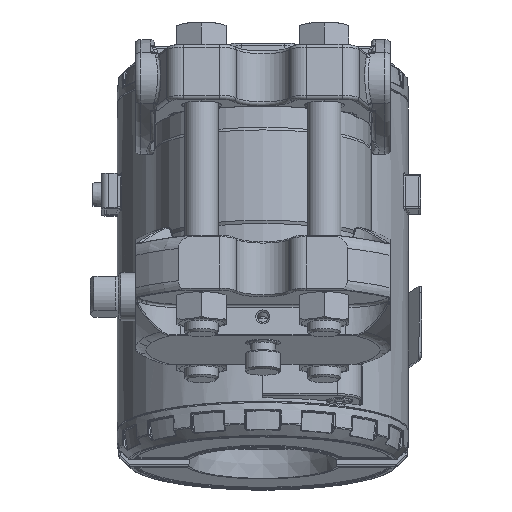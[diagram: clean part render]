
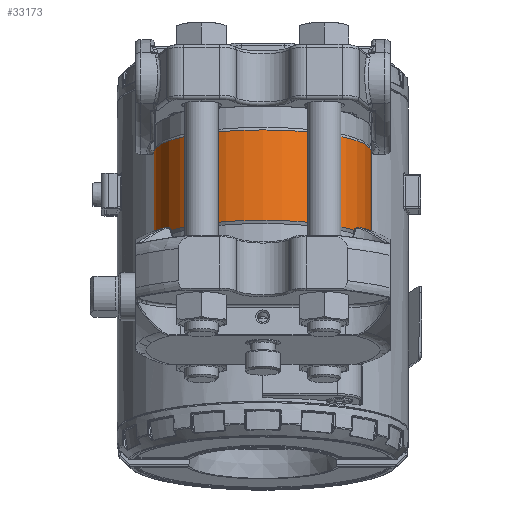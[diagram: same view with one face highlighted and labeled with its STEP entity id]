
A CAD part, left-side view. The second image highlights one B-rep face of the part: STEP entity #33173.
In plain terms, the highlighted cylindrical face has radius 31 mm (diameter 62 mm), a full revolution.
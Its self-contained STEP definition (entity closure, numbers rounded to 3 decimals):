
#523=B_SPLINE_CURVE_WITH_KNOTS('',3,(#51114,#51115,#51116,#51117,#51118,
#51119),.UNSPECIFIED.,.F.,.F.,(4,1,1,4),(0.,0.548,0.913,
1.279),.UNSPECIFIED.);
#524=B_SPLINE_CURVE_WITH_KNOTS('',3,(#51163,#51164,#51165,#51166,#51167,
#51168,#51169),.UNSPECIFIED.,.F.,.F.,(4,1,1,1,4),(0.,0.274,
0.548,0.913,1.279),.UNSPECIFIED.);
#525=B_SPLINE_CURVE_WITH_KNOTS('',3,(#51206,#51207,#51208,#51209,#51210,
#51211),.UNSPECIFIED.,.F.,.F.,(4,1,1,4),(0.,0.548,0.913,
1.279),.UNSPECIFIED.);
#526=B_SPLINE_CURVE_WITH_KNOTS('',3,(#51253,#51254,#51255,#51256,#51257,
#51258,#51259),.UNSPECIFIED.,.F.,.F.,(4,1,1,1,4),(0.,
0.274,0.548,0.913,1.279),
 .UNSPECIFIED.);
#3255=CYLINDRICAL_SURFACE('',#35961,31.);
#3831=FACE_OUTER_BOUND('',#6068,.T.);
#6068=EDGE_LOOP('',(#22300,#22301,#22302,#22303,#22304,#22305,#22306,#22307,
#22308,#22309,#22310,#22311,#22312,#22313,#22314,#22315,#22316,#22317));
#8380=LINE('',#51081,#9624);
#8381=LINE('',#51173,#9625);
#8382=LINE('',#51261,#9626);
#8383=LINE('',#51262,#9627);
#9624=VECTOR('',#40628,10.);
#9625=VECTOR('',#40645,10.);
#9626=VECTOR('',#40658,31.);
#9627=VECTOR('',#40659,31.);
#10827=CIRCLE('',#35815,31.);
#10828=CIRCLE('',#35816,31.);
#10833=CIRCLE('',#35823,31.);
#10834=CIRCLE('',#35824,31.);
#10907=CIRCLE('',#35951,31.);
#10908=CIRCLE('',#35952,31.);
#10913=CIRCLE('',#35959,31.);
#10914=CIRCLE('',#35960,31.);
#13499=VERTEX_POINT('',#50565);
#13500=VERTEX_POINT('',#50566);
#13506=VERTEX_POINT('',#50582);
#13507=VERTEX_POINT('',#50584);
#13586=VERTEX_POINT('',#51077);
#13587=VERTEX_POINT('',#51079);
#13588=VERTEX_POINT('',#51112);
#13589=VERTEX_POINT('',#51121);
#13590=VERTEX_POINT('',#51123);
#13591=VERTEX_POINT('',#51161);
#13592=VERTEX_POINT('',#51171);
#13593=VERTEX_POINT('',#51204);
#13594=VERTEX_POINT('',#51213);
#13595=VERTEX_POINT('',#51215);
#16699=EDGE_CURVE('',#13499,#13500,#10827,.T.);
#16700=EDGE_CURVE('',#13500,#13499,#10828,.T.);
#16708=EDGE_CURVE('',#13507,#13506,#10833,.T.);
#16709=EDGE_CURVE('',#13506,#13507,#10834,.T.);
#16834=EDGE_CURVE('',#13587,#13586,#8380,.T.);
#16836=EDGE_CURVE('',#13588,#13587,#523,.T.);
#16838=EDGE_CURVE('',#13589,#13590,#10907,.T.);
#16839=EDGE_CURVE('',#13590,#13588,#10908,.T.);
#16841=EDGE_CURVE('',#13591,#13589,#524,.T.);
#16843=EDGE_CURVE('',#13592,#13591,#8381,.T.);
#16845=EDGE_CURVE('',#13593,#13592,#525,.T.);
#16847=EDGE_CURVE('',#13594,#13595,#10913,.T.);
#16848=EDGE_CURVE('',#13595,#13593,#10914,.T.);
#16849=EDGE_CURVE('',#13586,#13594,#526,.T.);
#16850=EDGE_CURVE('',#13507,#13595,#8382,.T.);
#16851=EDGE_CURVE('',#13590,#13499,#8383,.T.);
#22300=ORIENTED_EDGE('',*,*,#16708,.T.);
#22301=ORIENTED_EDGE('',*,*,#16709,.T.);
#22302=ORIENTED_EDGE('',*,*,#16850,.T.);
#22303=ORIENTED_EDGE('',*,*,#16847,.F.);
#22304=ORIENTED_EDGE('',*,*,#16849,.F.);
#22305=ORIENTED_EDGE('',*,*,#16834,.F.);
#22306=ORIENTED_EDGE('',*,*,#16836,.F.);
#22307=ORIENTED_EDGE('',*,*,#16839,.F.);
#22308=ORIENTED_EDGE('',*,*,#16851,.T.);
#22309=ORIENTED_EDGE('',*,*,#16699,.T.);
#22310=ORIENTED_EDGE('',*,*,#16700,.T.);
#22311=ORIENTED_EDGE('',*,*,#16851,.F.);
#22312=ORIENTED_EDGE('',*,*,#16838,.F.);
#22313=ORIENTED_EDGE('',*,*,#16841,.F.);
#22314=ORIENTED_EDGE('',*,*,#16843,.F.);
#22315=ORIENTED_EDGE('',*,*,#16845,.F.);
#22316=ORIENTED_EDGE('',*,*,#16848,.F.);
#22317=ORIENTED_EDGE('',*,*,#16850,.F.);
#33173=ADVANCED_FACE('',(#3831),#3255,.T.);
#35815=AXIS2_PLACEMENT_3D('',#50567,#40321,#40322);
#35816=AXIS2_PLACEMENT_3D('',#50568,#40323,#40324);
#35823=AXIS2_PLACEMENT_3D('',#50585,#40340,#40341);
#35824=AXIS2_PLACEMENT_3D('',#50586,#40342,#40343);
#35951=AXIS2_PLACEMENT_3D('',#51124,#40635,#40636);
#35952=AXIS2_PLACEMENT_3D('',#51125,#40637,#40638);
#35959=AXIS2_PLACEMENT_3D('',#51216,#40652,#40653);
#35960=AXIS2_PLACEMENT_3D('',#51217,#40654,#40655);
#35961=AXIS2_PLACEMENT_3D('',#51260,#40656,#40657);
#40321=DIRECTION('center_axis',(0.,0.,1.));
#40322=DIRECTION('ref_axis',(-1.,0.,0.));
#40323=DIRECTION('center_axis',(0.,0.,1.));
#40324=DIRECTION('ref_axis',(-1.,0.,0.));
#40340=DIRECTION('center_axis',(0.,0.,-1.));
#40341=DIRECTION('ref_axis',(-1.,0.,0.));
#40342=DIRECTION('center_axis',(0.,0.,-1.));
#40343=DIRECTION('ref_axis',(-1.,0.,0.));
#40628=DIRECTION('',(0.,0.,1.));
#40635=DIRECTION('center_axis',(0.,0.,1.));
#40636=DIRECTION('ref_axis',(1.,0.,0.));
#40637=DIRECTION('center_axis',(0.,0.,1.));
#40638=DIRECTION('ref_axis',(1.,0.,0.));
#40645=DIRECTION('',(0.,0.,-1.));
#40652=DIRECTION('center_axis',(0.,0.,-1.));
#40653=DIRECTION('ref_axis',(1.,0.,0.));
#40654=DIRECTION('center_axis',(0.,0.,-1.));
#40655=DIRECTION('ref_axis',(1.,0.,0.));
#40656=DIRECTION('center_axis',(0.,0.,1.));
#40657=DIRECTION('ref_axis',(-1.,0.,0.));
#40658=DIRECTION('',(0.,0.,-1.));
#40659=DIRECTION('',(0.,0.,-1.));
#50565=CARTESIAN_POINT('',(31.,0.,-13.134));
#50566=CARTESIAN_POINT('',(-31.,0.,-13.134));
#50567=CARTESIAN_POINT('Origin',(0.,0.,-13.134));
#50568=CARTESIAN_POINT('Origin',(0.,0.,-13.134));
#50582=CARTESIAN_POINT('',(-31.,0.,13.134));
#50584=CARTESIAN_POINT('',(31.,0.,13.134));
#50585=CARTESIAN_POINT('Origin',(0.,0.,13.134));
#50586=CARTESIAN_POINT('Origin',(0.,0.,13.134));
#51077=CARTESIAN_POINT('',(28.645,11.853,5.));
#51079=CARTESIAN_POINT('',(28.645,11.853,-5.));
#51081=CARTESIAN_POINT('',(28.645,11.853,0.));
#51112=CARTESIAN_POINT('',(30.663,4.559,-13.));
#51114=CARTESIAN_POINT('Ctrl Pts',(30.663,4.559,-13.));
#51115=CARTESIAN_POINT('Ctrl Pts',(30.418,6.206,-13.));
#51116=CARTESIAN_POINT('Ctrl Pts',(29.764,8.89,-11.953));
#51117=CARTESIAN_POINT('Ctrl Pts',(28.867,11.328,-8.643));
#51118=CARTESIAN_POINT('Ctrl Pts',(28.645,11.853,-6.218));
#51119=CARTESIAN_POINT('Ctrl Pts',(28.645,11.853,-5.));
#51121=CARTESIAN_POINT('',(30.663,-4.559,-13.));
#51123=CARTESIAN_POINT('',(31.,0.,-13.));
#51124=CARTESIAN_POINT('Origin',(0.,0.,-13.));
#51125=CARTESIAN_POINT('Origin',(0.,0.,-13.));
#51161=CARTESIAN_POINT('',(28.645,-11.853,-5.));
#51163=CARTESIAN_POINT('Ctrl Pts',(28.645,-11.853,-5.));
#51164=CARTESIAN_POINT('Ctrl Pts',(28.645,-11.853,-5.913));
#51165=CARTESIAN_POINT('Ctrl Pts',(28.767,-11.563,-7.738));
#51166=CARTESIAN_POINT('Ctrl Pts',(29.292,-10.206,-10.383));
#51167=CARTESIAN_POINT('Ctrl Pts',(30.048,-7.829,-12.448));
#51168=CARTESIAN_POINT('Ctrl Pts',(30.5,-5.657,-13.));
#51169=CARTESIAN_POINT('Ctrl Pts',(30.663,-4.559,-13.));
#51171=CARTESIAN_POINT('',(28.645,-11.853,5.));
#51173=CARTESIAN_POINT('',(28.645,-11.853,0.));
#51204=CARTESIAN_POINT('',(30.663,-4.559,13.));
#51206=CARTESIAN_POINT('Ctrl Pts',(30.663,-4.559,13.));
#51207=CARTESIAN_POINT('Ctrl Pts',(30.418,-6.206,13.));
#51208=CARTESIAN_POINT('Ctrl Pts',(29.764,-8.89,11.953));
#51209=CARTESIAN_POINT('Ctrl Pts',(28.867,-11.328,8.643));
#51210=CARTESIAN_POINT('Ctrl Pts',(28.645,-11.853,6.218));
#51211=CARTESIAN_POINT('Ctrl Pts',(28.645,-11.853,5.));
#51213=CARTESIAN_POINT('',(30.663,4.559,13.));
#51215=CARTESIAN_POINT('',(31.,0.,13.));
#51216=CARTESIAN_POINT('Origin',(0.,0.,13.));
#51217=CARTESIAN_POINT('Origin',(0.,0.,13.));
#51253=CARTESIAN_POINT('Ctrl Pts',(28.645,11.853,5.));
#51254=CARTESIAN_POINT('Ctrl Pts',(28.645,11.853,5.913));
#51255=CARTESIAN_POINT('Ctrl Pts',(28.767,11.563,7.738));
#51256=CARTESIAN_POINT('Ctrl Pts',(29.292,10.206,10.383));
#51257=CARTESIAN_POINT('Ctrl Pts',(30.048,7.829,12.448));
#51258=CARTESIAN_POINT('Ctrl Pts',(30.5,5.657,13.));
#51259=CARTESIAN_POINT('Ctrl Pts',(30.663,4.559,13.));
#51260=CARTESIAN_POINT('Origin',(0.,0.,0.));
#51261=CARTESIAN_POINT('',(31.,0.,0.));
#51262=CARTESIAN_POINT('',(31.,0.,0.));
